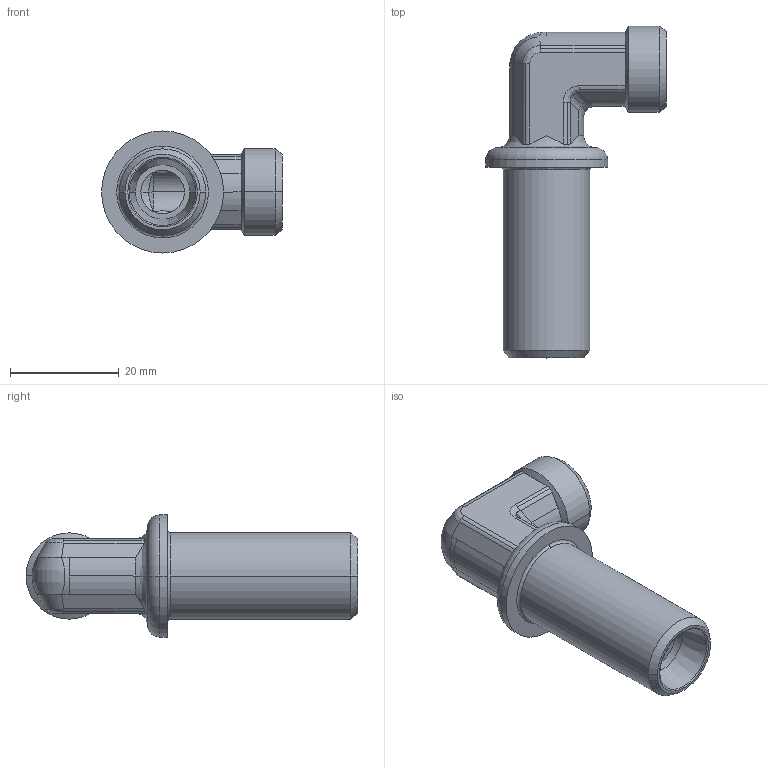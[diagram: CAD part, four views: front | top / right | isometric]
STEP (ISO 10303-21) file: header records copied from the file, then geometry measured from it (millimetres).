
FILE_DESCRIPTION((''),'2;1');
FILE_NAME('103706.stp','2007-10-31T11:48:13',(''),(''),'AutoCAD STEP 2000i','AutoCAD 2000i',', , ');
FILE_SCHEMA(('CONFIG_CONTROL_DESIGN'));
Length unit declared in the file: millimetre
Products named in the file (2): 103706.0; 3092#0
Assembly tree (1 placements, depth 2):
  103706.0
    3092#0
Bounding box: 33.2 x 60.92 x 22.4 mm (x, y, z)
Volume: 9727.7 mm3; surface area: 6143 mm2
Topology: 1 solids, 1 shells, 107 faces, 247 edges, 145 vertices
Faces by surface type: cylinder 46, plane 23, cone 18, bspline 16, torus 4
Entity records: 4063 total; most frequent: CARTESIAN_POINT 1553, DIRECTION 530, ORIENTED_EDGE 494, EDGE_CURVE 247, AXIS2_PLACEMENT_3D 224, VERTEX_POINT 145, CIRCLE 113, EDGE_LOOP 112
